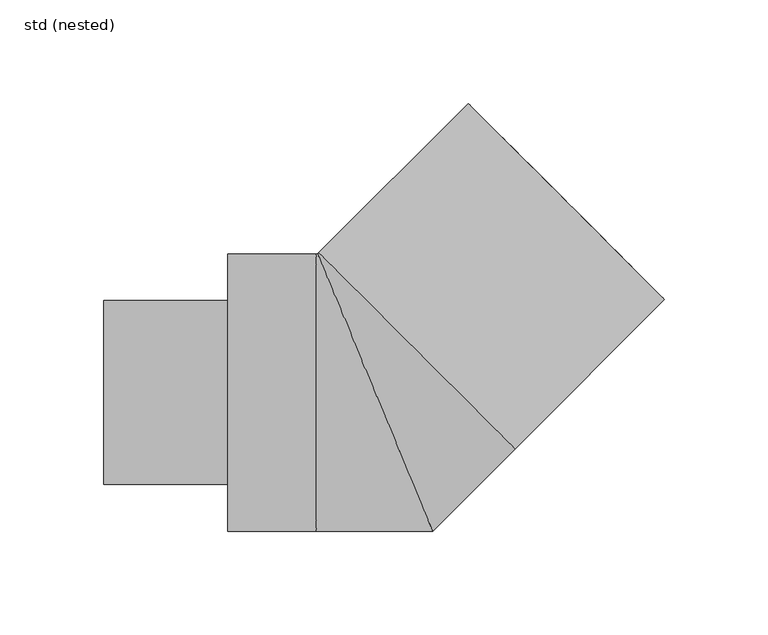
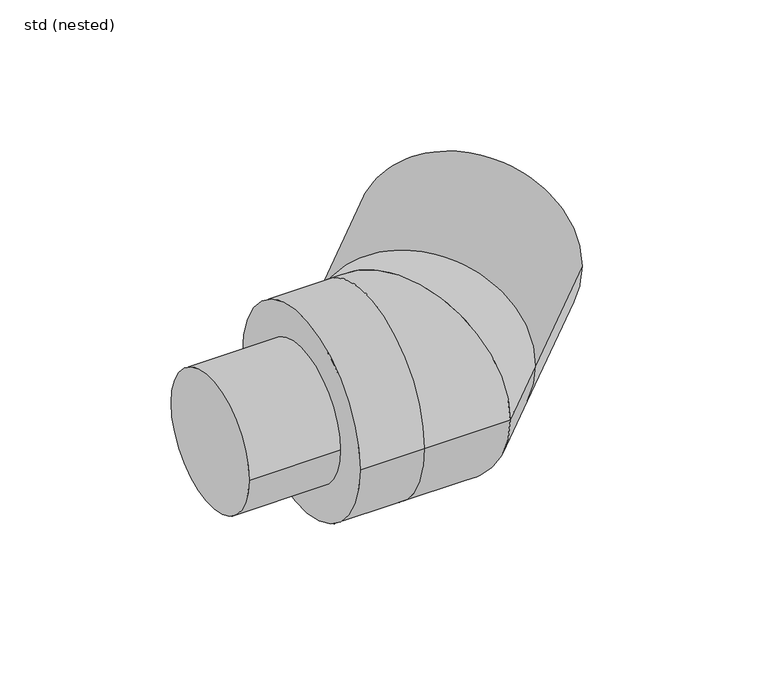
"""IFC4 building model written with IfcOpenShell, lengths in millimetres: pipe fitting geometry, ZZZ_do not use_PIF_ST_WPB_GM-X compound pipe bend_ACO : std (nested)."""

from ifc_helpers import new_model, si_unit, point, frame, origin, origin_2d, place, context, project, spatial, polyline, circle_curve, ellipse_curve, trimmed, segment, composite_curve, outline, extrude, source, transform, mapped, element, save
from ifc_brep_helpers import plane_surface, cylinder_surface, revolved_surface, advanced_brep


def std_nested_b675cc4e(model_context):
    return source(origin(), model_context, "Body", "SolidModel", [
        advanced_brep(
        [(50.2045815, 122.7537372, 0.0), (122.7537372, 50.2045815, 0.0), (106.6317026, 34.0825469, 0.0), (34.0825469, 106.6317026, 0.0), (124.8043469, 59.750523, 0.0), (59.750523, 124.8043469, 0.0), (60.8111832, 123.7436867, 0.0), (123.7436867, 60.8111832, 0.0), (82.37794, 17.3241161, 0.0), (17.3241161, 82.37794, 0.0), (81.3172798, 18.3847763, 0.0), (18.3847763, 81.3172798, 0.0), (119.0060713, 53.9522474, 0.0), (53.9522474, 119.0060713, 0.0), (37.8302128, 102.8840367, 0.0), (102.8840367, 37.8302128, 0.0)],
        [
            (0, 1, circle_curve(frame((86.4791593, 86.4791593, 0.0), z_axis=(-0.7071067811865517, -0.7071067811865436, 0.0), x_axis=(-0.7071067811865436, 0.7071067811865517, 0.0)), 51.3)),
            (1, 2),
            (2, 3, circle_curve(frame((70.3571247, 70.3571247, 0.0), z_axis=(0.7071067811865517, 0.7071067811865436, 0.0), x_axis=(-0.7071067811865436, 0.7071067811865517, 0.0)), 51.3)),
            (3, 0),
            (1, 0, circle_curve(frame((86.4791593, 86.4791593, 0.0), z_axis=(-0.7071067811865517, -0.7071067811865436, 0.0), x_axis=(-0.7071067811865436, 0.7071067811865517, 0.0)), 51.3)),
            (3, 2, circle_curve(frame((70.3571247, 70.3571247, 0.0), z_axis=(0.7071067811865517, 0.7071067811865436, 0.0), x_axis=(-0.7071067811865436, 0.7071067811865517, 0.0)), 51.3)),
            (4, 5, circle_curve(frame((92.2774349, 92.2774349, 0.0), z_axis=(0.7071067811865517, 0.7071067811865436, 0.0), x_axis=(-0.7071067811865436, 0.7071067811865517, 0.0)), 46.0)),
            (5, 4, circle_curve(frame((92.2774349, 92.2774349, 0.0), z_axis=(0.7071067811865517, 0.7071067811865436, 0.0), x_axis=(-0.7071067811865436, 0.7071067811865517, 0.0)), 46.0)),
            (6, 7, circle_curve(frame((92.2774349, 92.2774349, 0.0), z_axis=(-0.7071067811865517, -0.7071067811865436, 0.0), x_axis=(-0.7071067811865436, 0.7071067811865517, 0.0)), 44.5)),
            (7, 6, circle_curve(frame((92.2774349, 92.2774349, 0.0), z_axis=(-0.7071067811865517, -0.7071067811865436, 0.0), x_axis=(-0.7071067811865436, 0.7071067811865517, 0.0)), 44.5)),
            (8, 9, circle_curve(frame((49.8510281, 49.8510281, 0.0), z_axis=(-0.7071067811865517, -0.7071067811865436, 0.0), x_axis=(-0.7071067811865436, 0.7071067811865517, 0.0)), 46.0)),
            (9, 8, circle_curve(frame((49.8510281, 49.8510281, 0.0), z_axis=(-0.7071067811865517, -0.7071067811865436, 0.0), x_axis=(-0.7071067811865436, 0.7071067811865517, 0.0)), 46.0)),
            (10, 11, circle_curve(frame((49.8510281, 49.8510281, 0.0), z_axis=(0.7071067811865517, 0.7071067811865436, 0.0), x_axis=(-0.7071067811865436, 0.7071067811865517, 0.0)), 44.5)),
            (11, 10, circle_curve(frame((49.8510281, 49.8510281, 0.0), z_axis=(0.7071067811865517, 0.7071067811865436, 0.0), x_axis=(-0.7071067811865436, 0.7071067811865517, 0.0)), 44.5)),
            (4, 12),
            (12, 13, circle_curve(frame((86.4791593, 86.4791593, 0.0), z_axis=(0.7071067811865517, 0.7071067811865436, 0.0), x_axis=(-0.7071067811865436, 0.7071067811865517, 0.0)), 46.0)),
            (13, 5),
            (9, 14),
            (14, 15, circle_curve(frame((70.3571247, 70.3571247, 0.0), z_axis=(-0.7071067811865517, -0.7071067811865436, 0.0), x_axis=(-0.7071067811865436, 0.7071067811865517, 0.0)), 46.0)),
            (15, 8),
            (13, 12, circle_curve(frame((86.4791593, 86.4791593, 0.0), z_axis=(0.7071067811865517, 0.7071067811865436, 0.0), x_axis=(-0.7071067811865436, 0.7071067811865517, 0.0)), 46.0)),
            (15, 14, circle_curve(frame((70.3571247, 70.3571247, 0.0), z_axis=(-0.7071067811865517, -0.7071067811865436, 0.0), x_axis=(-0.7071067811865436, 0.7071067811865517, 0.0)), 46.0)),
            (6, 11),
            (10, 7),
        ],
        [
            cylinder_surface(frame((70.3571247, 70.3571247, 0.0), z_axis=(0.7071067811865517, 0.7071067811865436, 0.0), x_axis=(-0.7071067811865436, 0.7071067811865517, 0.0)), 51.3),
            plane_surface(frame((59.750523, 124.8043469, 0.0), z_axis=(0.7071067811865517, 0.7071067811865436, 0.0), x_axis=(0.0, 0.0, 1.0))),
            plane_surface(frame((17.3241161, 82.37794, 0.0), z_axis=(-0.7071067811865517, -0.7071067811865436, 0.0), x_axis=(0.0, 0.0, -1.0))),
            cylinder_surface(frame((49.8510281, 49.8510281, 0.0), z_axis=(0.7071067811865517, 0.7071067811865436, 0.0), x_axis=(-0.7071067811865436, 0.7071067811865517, 0.0)), 46.0),
            revolved_surface(polyline([(60.81118318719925, 123.74368671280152, 0.0), (18.384776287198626, 81.31727981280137, 0.0)]), (49.8510281, 49.8510281, 0.0), (0.7071067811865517, 0.7071067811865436, 0.0)),
            plane_surface(frame((50.2045815, 122.7537372, 0.0), z_axis=(0.7071067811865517, 0.7071067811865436, 0.0), x_axis=(0.0, 0.0, 1.0))),
            plane_surface(frame((34.0825469, 106.6317026, 0.0), z_axis=(-0.7071067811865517, -0.7071067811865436, 0.0), x_axis=(0.0, 0.0, -1.0))),
        ],
        [
            (0, [[1, 2, 3, 4]]),
            (0, [[5, -4, 6, -2]]),
            (1, [[7, 8], [9, 10]]),
            (2, [[11, 12], [13, 14]]),
            (3, [[-7, 15, 16, 17]]),
            (3, [[-12, 18, 19, 20]]),
            (3, [[-8, -17, 21, -15]]),
            (3, [[-11, -20, 22, -18]]),
            (4, [[23, -13, 24, -9]]),
            (4, [[-23, -10, -24, -14]]),
            (5, [[-1, -5], [-16, -21]]),
            (6, [[-6, -3], [-19, -22]]),
        ],
    ),
        extrude(outline(composite_curve([segment(trimmed(circle_curve(origin_2d(), 44.5), [point((-44.5, 0.0))], [point((44.5, 0.0))], False, "CARTESIAN"), True, "CONTINUOUS"), segment(trimmed(circle_curve(origin_2d(), 44.5), [point((44.5, 0.0))], [point((-44.5, 0.0))], False, "CARTESIAN"), True, "CONTINUOUS")], self_intersect=False)), frame((-131.2, 0.0, 0.0), z_axis=(1.0, 0.0, 0.0), x_axis=(0.0, 1.0, 0.0)), (0.0, 0.0, 1.0), 60.0),
        advanced_brep(
        [(44.9012806, 139.6535893, 0.0), (139.6535893, 44.9012806, 0.0), (124.8043469, 59.750523, 0.0), (59.750523, 124.8043469, 0.0), (-27.1665222, 67.5857864, 0.0), (67.5857864, -27.1665222, 0.0), (-28.5807358, -67.0, 0.0), (27.7523087, -67.0, 0.0), (-27.7523087, 67.0, 0.0), (-28.5807358, 67.0, 0.0), (17.3241161, 82.37794, 0.0), (82.37794, 17.3241161, 0.0), (-71.2, -67.0, 0.0), (-71.2, 67.0, 0.0)],
        [
            (0, 1, circle_curve(frame((92.2774349, 92.2774349, 0.0), z_axis=(0.7071067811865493, 0.7071067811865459, 0.0), x_axis=(0.7071067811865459, -0.7071067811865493, 0.0)), 67.0)),
            (1, 0, circle_curve(frame((92.2774349, 92.2774349, 0.0), z_axis=(0.7071067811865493, 0.7071067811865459, 0.0), x_axis=(0.7071067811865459, -0.7071067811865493, 0.0)), 67.0)),
            (2, 3, circle_curve(frame((92.2774349, 92.2774349, 0.0), z_axis=(-0.7071067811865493, -0.7071067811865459, 0.0), x_axis=(0.7071067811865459, -0.7071067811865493, 0.0)), 46.0)),
            (3, 2, circle_curve(frame((92.2774349, 92.2774349, 0.0), z_axis=(-0.7071067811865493, -0.7071067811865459, 0.0), x_axis=(0.7071067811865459, -0.7071067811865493, 0.0)), 46.0)),
            (0, 4),
            (4, 5, circle_curve(frame((20.2096321, 20.2096321, 0.0), z_axis=(0.7071067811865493, 0.7071067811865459, 0.0), x_axis=(0.7071067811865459, -0.7071067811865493, 0.0)), 67.0)),
            (5, 1),
            (5, 4, circle_curve(frame((20.2096321, 20.2096321, 0.0), z_axis=(0.7071067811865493, 0.7071067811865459, 0.0), x_axis=(0.7071067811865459, -0.7071067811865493, 0.0)), 67.0)),
            (6, 7),
            (7, 8, ellipse_curve(frame((0.0, 0.0, 0.0), z_axis=(-0.9238795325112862, -0.3826834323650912, 0.0), x_axis=(-0.38268343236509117, 0.9238795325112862, 0.0)), 72.5202774, 67.0)),
            (8, 9),
            (9, 6, circle_curve(frame((-28.5807358, 0.0, 0.0), z_axis=(1.0, 0.0, 0.0), x_axis=(0.0, 1.0, 0.0)), 67.0)),
            (6, 9, circle_curve(frame((-28.5807358, 0.0, 0.0), z_axis=(1.0, 0.0, 0.0), x_axis=(0.0, 1.0, 0.0)), 67.0)),
            (8, 7, ellipse_curve(frame((0.0, 0.0, 0.0), z_axis=(-0.9238795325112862, -0.3826834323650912, 0.0), x_axis=(-0.38268343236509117, 0.9238795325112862, 0.0)), 72.5202774, 67.0)),
            (7, 5),
            (4, 8),
            (10, 11, circle_curve(frame((49.8510281, 49.8510281, 0.0), z_axis=(0.7071067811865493, 0.7071067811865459, 0.0), x_axis=(0.7071067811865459, -0.7071067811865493, 0.0)), 46.0)),
            (11, 10, circle_curve(frame((49.8510281, 49.8510281, 0.0), z_axis=(0.7071067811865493, 0.7071067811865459, 0.0), x_axis=(0.7071067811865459, -0.7071067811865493, 0.0)), 46.0)),
            (10, 3),
            (2, 11),
            (12, 13, circle_curve(frame((-71.2, 0.0, 0.0), z_axis=(-1.0, 0.0, 0.0), x_axis=(0.0, 1.0, 0.0)), 67.0)),
            (13, 12, circle_curve(frame((-71.2, 0.0, 0.0), z_axis=(-1.0, 0.0, 0.0), x_axis=(0.0, 1.0, 0.0)), 67.0)),
            (9, 13),
            (12, 6),
        ],
        [
            plane_surface(frame((139.6535893, 44.9012806, 0.0), z_axis=(0.7071067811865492, 0.7071067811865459, 0.0), x_axis=(0.0, 0.0, -1.0))),
            cylinder_surface(frame((20.2096321, 20.2096321, 0.0), z_axis=(0.7071067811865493, 0.7071067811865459, 0.0), x_axis=(0.7071067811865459, -0.7071067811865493, 0.0)), 67.0),
            cylinder_surface(frame((-28.5807358, 0.0, 0.0), z_axis=(-1.0, 0.0, 0.0), x_axis=(0.0, 1.0, 0.0)), 67.0),
            cylinder_surface(frame((0.0, 0.0, 0.0), z_axis=(-0.7071067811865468, -0.7071067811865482, 0.0), x_axis=(-0.7071067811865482, 0.7071067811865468, 0.0)), 67.0),
            plane_surface(frame((82.37794, 17.3241161, 0.0), z_axis=(0.7071067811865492, 0.7071067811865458, 0.0), x_axis=(0.0, 0.0, 1.0))),
            revolved_surface(polyline([(124.80434688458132, 59.75052301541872, 0.0), (82.37793998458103, 17.32411611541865, 0.0)]), (49.8510281, 49.8510281, 0.0), (0.7071067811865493, 0.7071067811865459, 0.0)),
            plane_surface(frame((-71.2, 67.0, 0.0), z_axis=(-1.0, 0.0, 0.0), x_axis=(0.0, 0.0, 1.0))),
        ],
        [
            (0, [[1, 2], [3, 4]]),
            (1, [[-1, 5, 6, 7]]),
            (1, [[-2, -7, 8, -5]]),
            (2, [[9, 10, 11, 12]]),
            (2, [[-9, 13, -11, 14]]),
            (3, [[-10, 15, -6, 16]]),
            (3, [[-14, -16, -8, -15]]),
            (4, [[17, 18]]),
            (5, [[-17, 19, -3, 20]]),
            (5, [[-18, -20, -4, -19]]),
            (6, [[21, 22]]),
            (2, [[-12, 23, -21, 24]]),
            (2, [[-13, -24, -22, -23]]),
        ],
    ),
    ])


if __name__ == "__main__":
    model = new_model("IFC4")
    model_context = context("Model", 3, world=origin())
    ifc_project = project(units=[si_unit("LENGTHUNIT", "METRE", prefix="MILLI")], contexts=[model_context])
    site = spatial("IfcSite", under=ifc_project)
    building = spatial("IfcBuilding", under=site)
    placement = place(None, origin())
    std_nested_shape = std_nested_b675cc4e(model_context)
    element("IfcPipeFitting", 1, ObjectType="ZZZ_do not use_PIF_ST_WPB_GM-X compound pipe bend_ACO : std (nested)", at=placement, inside=building, context=model_context, shape_type="MappedRepresentation", body=[
        mapped(std_nested_shape, transform((0.0, 0.0, 0.0), x_axis=(1.0, 0.0, 0.0), y_axis=(0.0, 1.0, 0.0), z_axis=(0.0, 0.0, 1.0))),
    ])
    save(model, "model.ifc")
